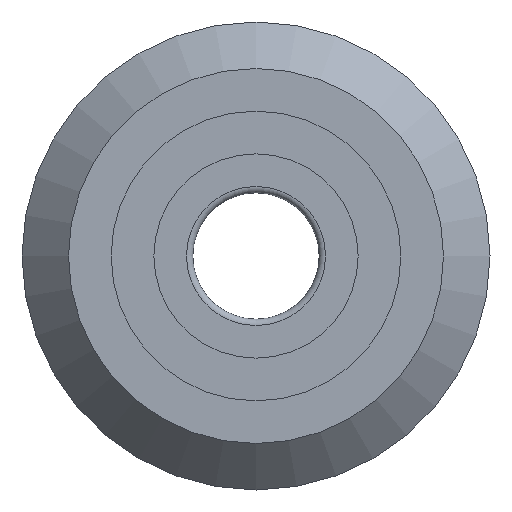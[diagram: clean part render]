
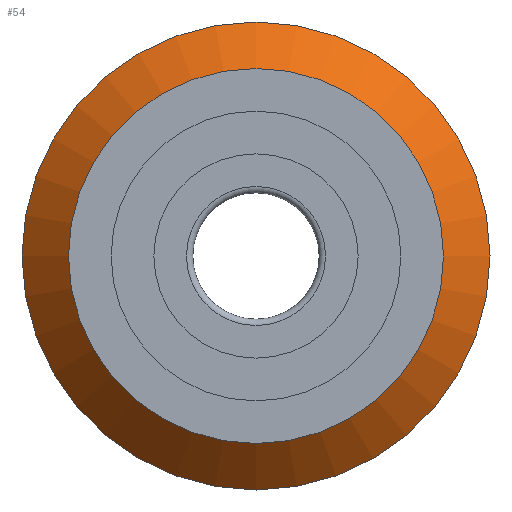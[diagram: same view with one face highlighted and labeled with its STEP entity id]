
A CAD part, left-side view. The second image highlights one B-rep face of the part: STEP entity #54.
In plain terms, the highlighted conical face has half-angle 45 degrees and reference radius 7.417 mm.
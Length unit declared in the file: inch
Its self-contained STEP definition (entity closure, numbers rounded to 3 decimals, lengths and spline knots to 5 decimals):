
#54 = ADVANCED_FACE( '', ( #131, #132 ), #133, .T. );
#131 = FACE_BOUND( '', #258, .T. );
#132 = FACE_OUTER_BOUND( '', #259, .T. );
#133 = CONICAL_SURFACE( '', #260, 0.292, 0.785 );
#258 = EDGE_LOOP( '', ( #379 ) );
#259 = EDGE_LOOP( '', ( #380 ) );
#260 = AXIS2_PLACEMENT_3D( '', #381, #382, #383 );
#379 = ORIENTED_EDGE( '', *, *, #559, .T. );
#380 = ORIENTED_EDGE( '', *, *, #560, .F. );
#381 = CARTESIAN_POINT( '', ( -0.067, 0., 0. ) );
#382 = DIRECTION( '', ( 1., 0., 0. ) );
#383 = DIRECTION( '', ( 0., 0., -1. ) );
#559 = EDGE_CURVE( '', #619, #619, #620, .T. );
#560 = EDGE_CURVE( '', #621, #621, #622, .T. );
#619 = VERTEX_POINT( '', #709 );
#620 = CIRCLE( '', #710, 0.234 );
#621 = VERTEX_POINT( '', #711 );
#622 = CIRCLE( '', #712, 0.292 );
#709 = CARTESIAN_POINT( '', ( -0.125, 0., -0.234 ) );
#710 = AXIS2_PLACEMENT_3D( '', #798, #799, #800 );
#711 = CARTESIAN_POINT( '', ( -0.067, 0., -0.292 ) );
#712 = AXIS2_PLACEMENT_3D( '', #801, #802, #803 );
#798 = CARTESIAN_POINT( '', ( -0.125, 0., 0. ) );
#799 = DIRECTION( '', ( 1., 0., 0. ) );
#800 = DIRECTION( '', ( 0., 0., -1. ) );
#801 = CARTESIAN_POINT( '', ( -0.067, 0., 0. ) );
#802 = DIRECTION( '', ( 1., 0., 0. ) );
#803 = DIRECTION( '', ( 0., 0., -1. ) );
